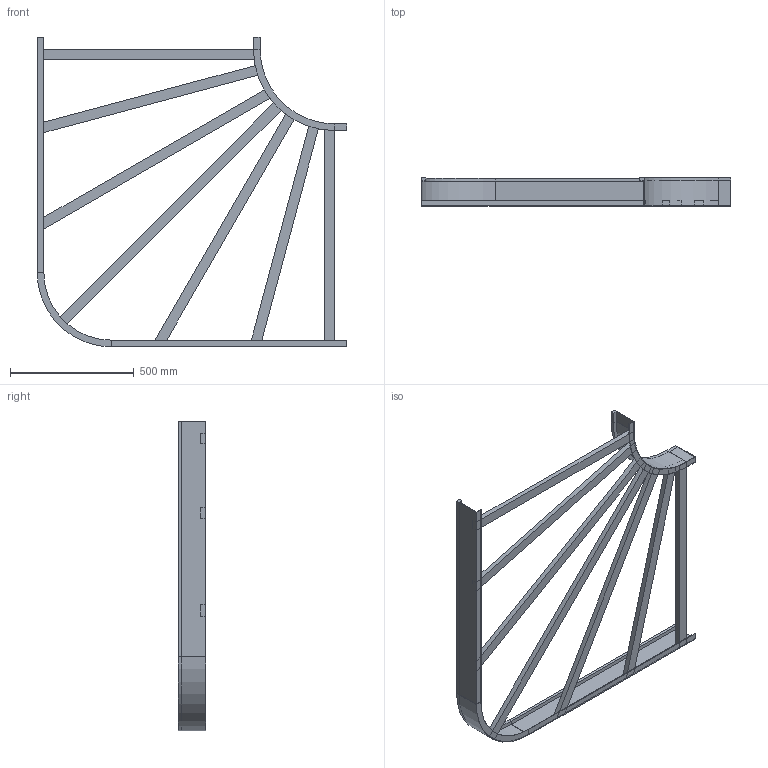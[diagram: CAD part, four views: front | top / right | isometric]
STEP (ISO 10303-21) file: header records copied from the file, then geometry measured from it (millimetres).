
FILE_DESCRIPTION (( 'STEP AP214' ), '1' );
FILE_NAME ('B2_10B3J900.step', '2025-02-21T15:25:33', ( '' ), ( '' ), 'SwSTEP 2.0', 'SolidWorks 2023', '' );
FILE_SCHEMA (( 'AUTOMOTIVE_DESIGN' ));
Length unit declared in the file: millimetre
Products named in the file (7): TRAVERSINO_1050_SCANTONATO; TRAVERSINO_956_SCANTONATO; B2_10B3J900; B2_LONGH.INTERNO 90°_H112.5_R300; B2_LONGH.ESTERNO 90°_H112.5_R300+900; TRAVERSINO_1267; TRAVERSINO_900
Assembly tree (9 placements, depth 2):
  B2_10B3J900
    B2_LONGH.INTERNO 90°_H112.5_R300
    B2_LONGH.ESTERNO 90°_H112.5_R300+900
    TRAVERSINO_900  x2
    TRAVERSINO_956_SCANTONATO  x2
    TRAVERSINO_1050_SCANTONATO  x2
    TRAVERSINO_1267
Bounding box: 1250 x 112.5 x 1250 mm (x, y, z)
Volume: 7138907.1 mm3; surface area: 1789747.8 mm2
Topology: 9 solids, 9 shells, 94 faces, 196 edges, 120 vertices
Faces by surface type: plane 86, cylinder 8
Entity records: 2208 total; most frequent: DIRECTION 352, CARTESIAN_POINT 344, ORIENTED_EDGE 320, EDGE_CURVE 160, LINE 144, VECTOR 144, AXIS2_PLACEMENT_3D 104, VERTEX_POINT 96
